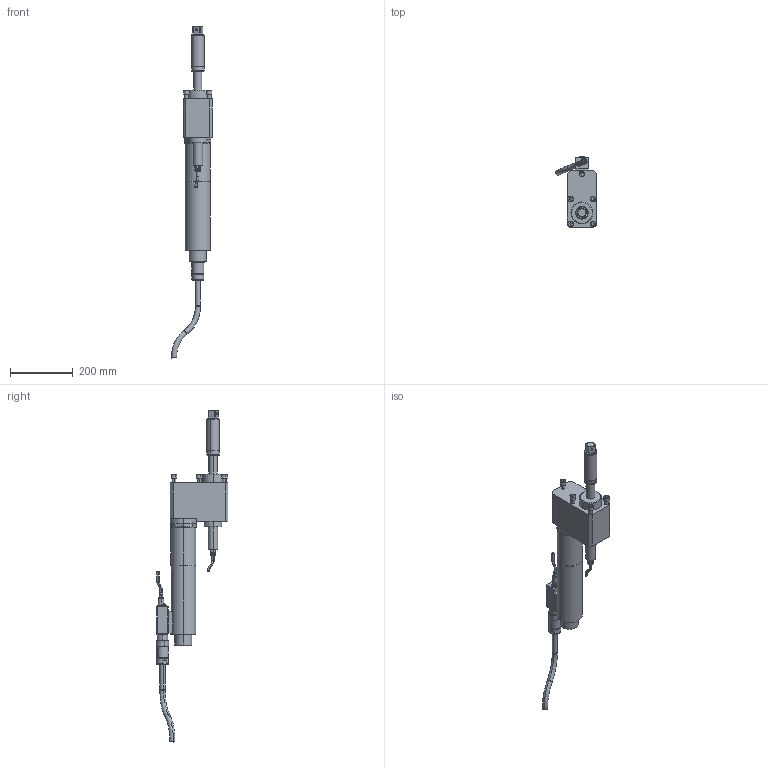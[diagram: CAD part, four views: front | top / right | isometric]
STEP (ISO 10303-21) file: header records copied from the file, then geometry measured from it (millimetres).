
FILE_DESCRIPTION(('CATIA V5 STEP Exchange','CAx-IF Rec.Pracs.--- Model Styling and Organization---1.2---2011-12-15'),'2;1');
FILE_NAME('O:\3D-Schrauber\Einschauschrauber Groesse3 CATIA V4+V5\7920227_ECR344_AOD360-1000_AllCATPart.stp','2015-11-13T13:02:10+00:00',('none'),('none'),'CATIA Version 5-6 Release 2014 SP1 HF29','CATIA V5 STEP AP214','none');
FILE_SCHEMA(('AUTOMOTIVE_DESIGN { 1 0 10303 214 1 1 1 1 }'));
Length unit declared in the file: millimetre
Products named in the file (1): 7920227_ECR344_AOD360-1000_AllCATPart
Bounding box: 130.32 x 227.98 x 1056.86 mm (x, y, z)
Volume: 4666327.6 mm3; surface area: 373020.6 mm2
Topology: 17 solids, 122 shells, 601 faces, 1628 edges, 1178 vertices
Faces by surface type: plane 238, cylinder 215, cone 56, torus 48, revolution 20, bspline 20, sphere 4
Entity records: 21074 total; most frequent: CARTESIAN_POINT 7711, ORIENTED_EDGE 2764, DIRECTION 1967, EDGE_CURVE 1602, VERTEX_POINT 1178, AXIS2_PLACEMENT_3D 927, EDGE_LOOP 653, ADVANCED_FACE 601
